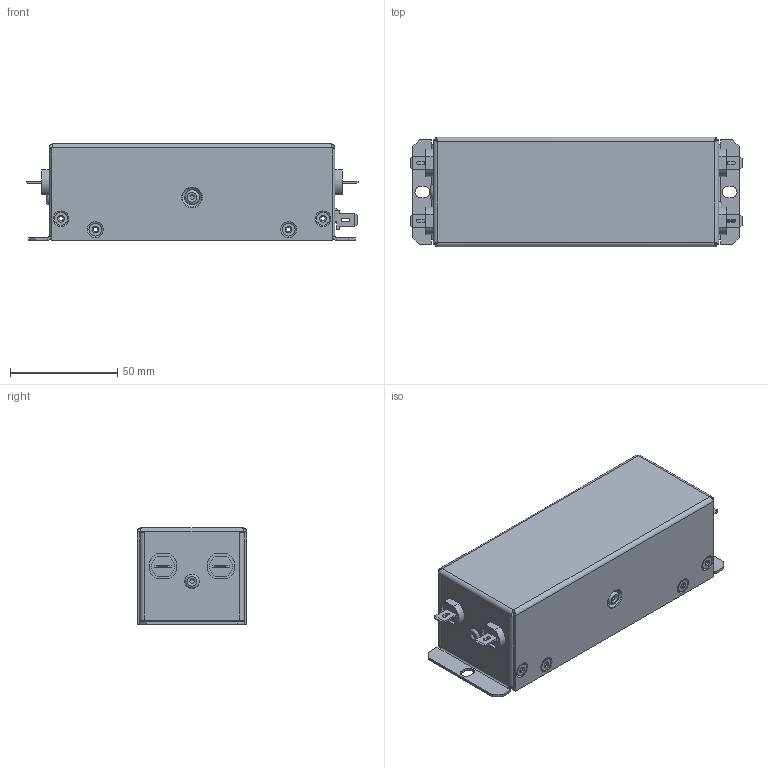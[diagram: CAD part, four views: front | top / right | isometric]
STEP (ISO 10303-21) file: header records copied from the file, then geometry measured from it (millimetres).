
FILE_DESCRIPTION(/* description */ (''),/* implementation_level */ '2;1');
FILE_NAME(/* name */ 'C:\SapWorkDir\Inventor\P01\ConvertTempPath\187377_IPT_000.ipt.stp',/* time_stamp */ '2018-01-16T15:17:28+07:00',/* author */ ('Eakchai.Yodchai'),/* organization */ ('Schaffner Thailand Ltd.'),/* preprocessor_version */ 'ST-DEVELOPER v16.5',/* originating_system */ 'Autodesk Inventor 2017',/* authorisation */ '');
FILE_SCHEMA (('AUTOMOTIVE_DESIGN { 1 0 10303 214 3 1 1 }'));
Length unit declared in the file: millimetre
Products named in the file (1): 800294
Bounding box: 154.6 x 51.18 x 45 mm (x, y, z)
Volume: 38985 mm3; surface area: 66566.9 mm2
Topology: 1 solids, 5 shells, 911 faces, 2324 edges, 1471 vertices
Faces by surface type: plane 423, cylinder 302, bspline 104, torus 54, cone 28
Full cylindrical faces by diameter (mm): 2 x12, 2.5 x4, 2.8 x1, 3.2 x8, 3.3 x3, 3.4 x24, 3.5 x1, 3.8 x8, 5 x4, 6 x8
Entity records: 31244 total; most frequent: CARTESIAN_POINT 9038, DIRECTION 4414, ORIENTED_EDGE 4268, EDGE_CURVE 2134, AXIS2_PLACEMENT_3D 1588, VERTEX_POINT 1436, LINE 1238, VECTOR 1238
